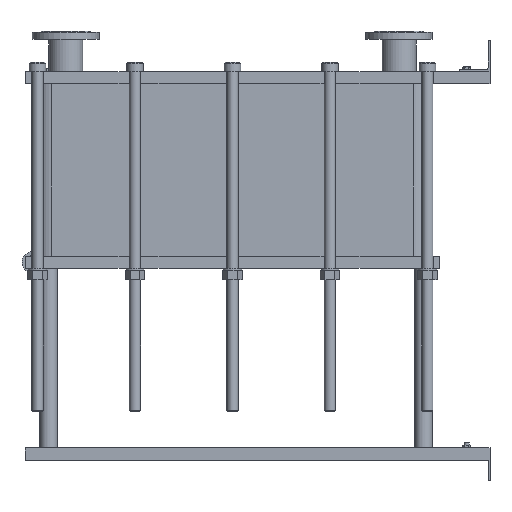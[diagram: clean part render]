
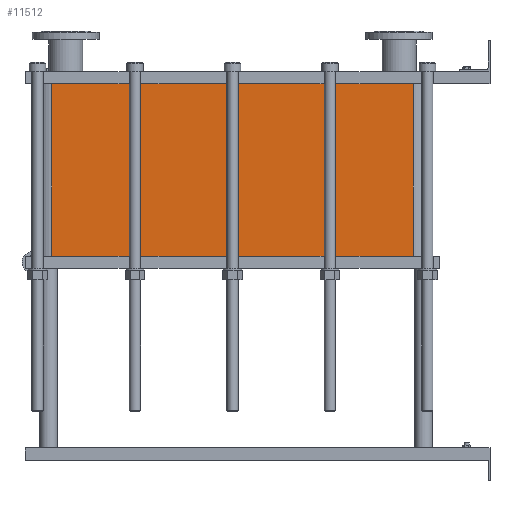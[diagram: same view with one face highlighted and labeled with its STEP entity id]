
A CAD part, left-side view. The second image highlights one B-rep face of the part: STEP entity #11512.
In plain terms, the highlighted planar face has unit normal (-1, 0, 0).
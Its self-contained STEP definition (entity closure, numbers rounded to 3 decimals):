
#1129=LINE('',#23232,#2102);
#1130=LINE('',#23236,#2103);
#1131=LINE('',#23238,#2104);
#1132=LINE('',#23239,#2105);
#2102=VECTOR('',#15887,10.);
#2103=VECTOR('',#15892,10.);
#2104=VECTOR('',#15893,10.);
#2105=VECTOR('',#15894,10.);
#3267=FACE_OUTER_BOUND('',#4093,.T.);
#4093=EDGE_LOOP('',(#10103,#10104,#10105,#10106));
#5642=VERTEX_POINT('',#23229);
#5643=VERTEX_POINT('',#23231);
#5644=VERTEX_POINT('',#23235);
#5645=VERTEX_POINT('',#23237);
#7159=EDGE_CURVE('',#5643,#5642,#1129,.T.);
#7161=EDGE_CURVE('',#5642,#5644,#1130,.T.);
#7162=EDGE_CURVE('',#5645,#5644,#1131,.T.);
#7163=EDGE_CURVE('',#5645,#5643,#1132,.T.);
#10103=ORIENTED_EDGE('',*,*,#7161,.T.);
#10104=ORIENTED_EDGE('',*,*,#7162,.F.);
#10105=ORIENTED_EDGE('',*,*,#7163,.T.);
#10106=ORIENTED_EDGE('',*,*,#7159,.T.);
#10857=PLANE('',#12751);
#11512=ADVANCED_FACE('',(#3267),#10857,.T.);
#12751=AXIS2_PLACEMENT_3D('',#23234,#15890,#15891);
#15887=DIRECTION('',(0.,0.,-1.));
#15890=DIRECTION('center_axis',(-1.,0.,0.));
#15891=DIRECTION('ref_axis',(0.,1.,0.));
#15892=DIRECTION('',(0.,-1.,0.));
#15893=DIRECTION('',(0.,0.,-1.));
#15894=DIRECTION('',(0.,1.,0.));
#23229=CARTESIAN_POINT('',(-200.,1414.,-555.45));
#23231=CARTESIAN_POINT('',(-200.,1414.,0.));
#23232=CARTESIAN_POINT('',(-200.,1414.,0.));
#23234=CARTESIAN_POINT('Origin',(-200.,248.,0.));
#23235=CARTESIAN_POINT('',(-200.,248.,-555.45));
#23236=CARTESIAN_POINT('',(-200.,539.5,-555.45));
#23237=CARTESIAN_POINT('',(-200.,248.,0.));
#23238=CARTESIAN_POINT('',(-200.,248.,0.));
#23239=CARTESIAN_POINT('',(-200.,248.,0.));
